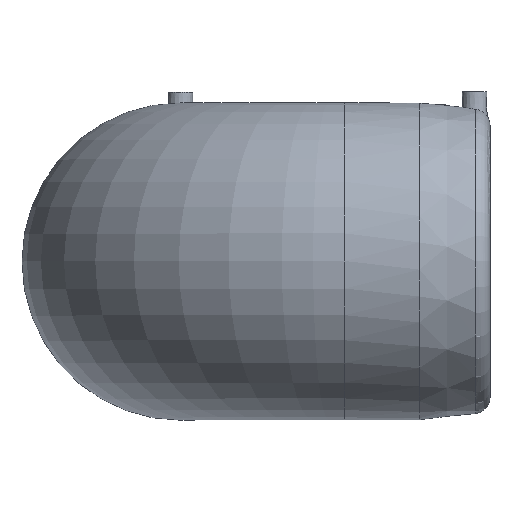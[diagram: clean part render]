
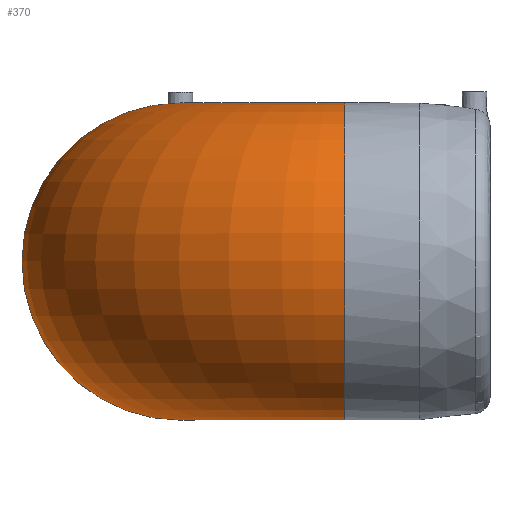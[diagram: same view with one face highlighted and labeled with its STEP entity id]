
A CAD part, top view. The second image highlights one B-rep face of the part: STEP entity #370.
In plain terms, the highlighted toroidal (fillet/blend) face has major radius 128 mm and minor radius 123.5 mm.
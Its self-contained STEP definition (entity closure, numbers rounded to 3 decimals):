
#47=TOROIDAL_SURFACE('',#428,128.,123.5);
#56=CIRCLE('',#418,123.5);
#58=CIRCLE('',#422,123.5);
#105=ORIENTED_EDGE('',*,*,#166,.F.);
#106=ORIENTED_EDGE('',*,*,#168,.T.);
#166=EDGE_CURVE('',#203,#203,#56,.F.);
#168=EDGE_CURVE('',#205,#205,#58,.F.);
#203=VERTEX_POINT('',#684);
#205=VERTEX_POINT('',#690);
#258=EDGE_LOOP('',(#105));
#259=EDGE_LOOP('',(#106));
#317=FACE_BOUND('',#258,.T.);
#318=FACE_BOUND('',#259,.T.);
#370=ADVANCED_FACE('',(#317,#318),#47,.T.);
#418=AXIS2_PLACEMENT_3D('',#683,#492,#493);
#422=AXIS2_PLACEMENT_3D('',#689,#500,#501);
#428=AXIS2_PLACEMENT_3D('',#728,#512,#513);
#492=DIRECTION('',(-1.,0.,0.));
#493=DIRECTION('',(0.,0.,-1.));
#500=DIRECTION('',(0.,0.,-1.));
#501=DIRECTION('',(1.,0.,0.));
#512=DIRECTION('',(0.,1.,0.));
#513=DIRECTION('',(0.,0.,1.));
#683=CARTESIAN_POINT('',(128.,0.,241.));
#684=CARTESIAN_POINT('',(128.,0.,117.5));
#689=CARTESIAN_POINT('',(0.,0.,113.));
#690=CARTESIAN_POINT('',(123.5,0.,113.));
#728=CARTESIAN_POINT('',(128.,0.,113.));
